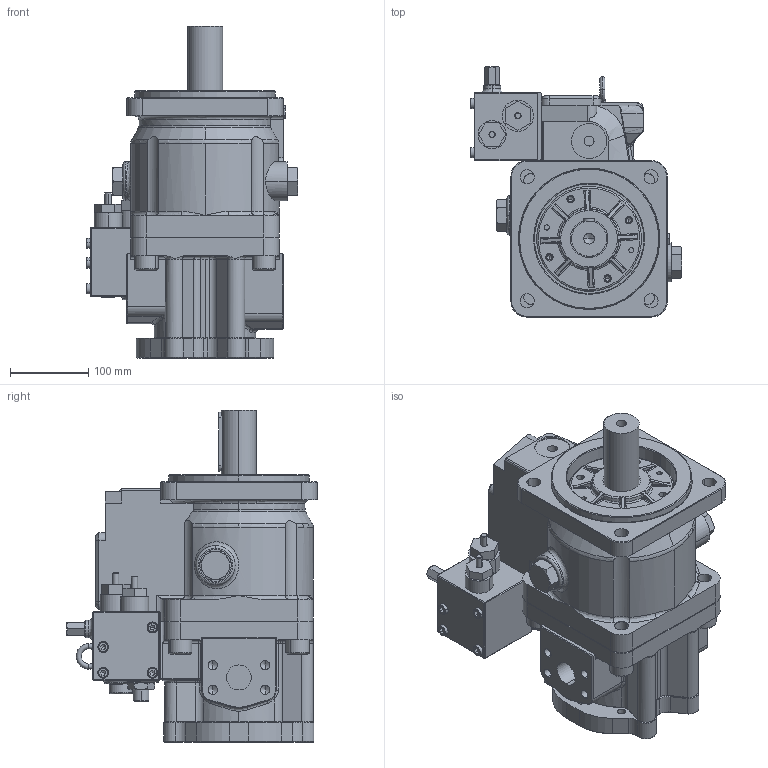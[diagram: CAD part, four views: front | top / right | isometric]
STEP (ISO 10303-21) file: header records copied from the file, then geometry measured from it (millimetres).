
FILE_DESCRIPTION((''),'2;1');
FILE_NAME('I:\Inventor\K3V, M2X\MODEL LIBRARY\K3VL112A 1BRMM LO.stp','2005-04-12T08:49:38',('mnorman'),(''),'Autodesk Inventor 9','Autodesk Inventor 9','');
FILE_SCHEMA(('AUTOMOTIVE_DESIGN { 1 0 10303 214 1 1 1 1 }'));
Length unit declared in the file: millimetre
Products named in the file (1): Part1
Bounding box: 270.5 x 320 x 424.5 mm (x, y, z)
Volume: 12313372.7 mm3; surface area: 645069.2 mm2
Topology: 1 solids, 22 shells, 1438 faces, 3600 edges, 2199 vertices
Faces by surface type: plane 463, cylinder 373, bspline 361, cone 187, torus 52, sphere 2
Entity records: 52558 total; most frequent: CARTESIAN_POINT 19674, ORIENTED_EDGE 7024, DIRECTION 6796, EDGE_CURVE 3512, AXIS2_PLACEMENT_3D 2632, VERTEX_POINT 2199, EDGE_LOOP 1593, VECTOR 1532
